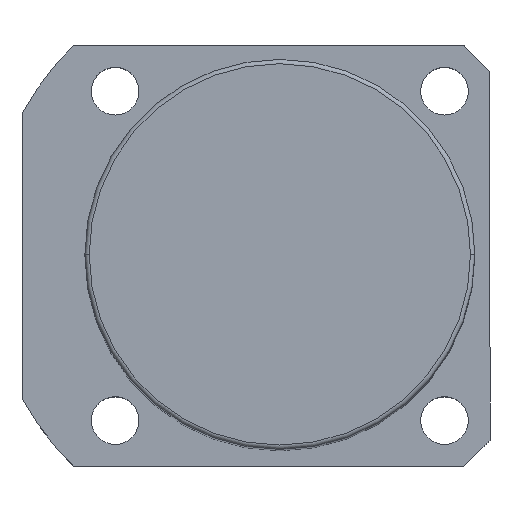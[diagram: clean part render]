
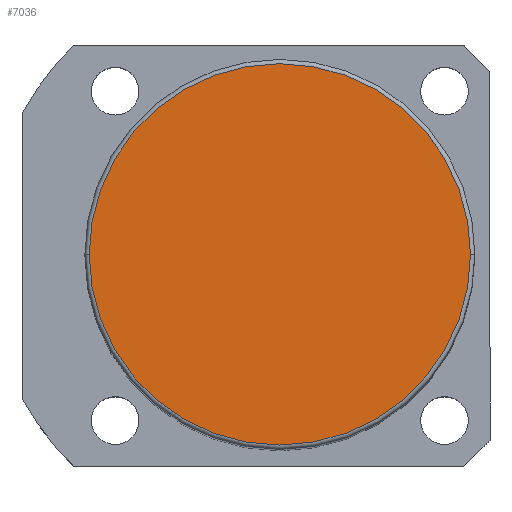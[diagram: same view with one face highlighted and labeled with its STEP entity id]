
A CAD part, top view. The second image highlights one B-rep face of the part: STEP entity #7036.
In plain terms, the highlighted planar face has unit normal (0, 0, 1).
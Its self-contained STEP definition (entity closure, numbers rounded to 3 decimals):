
#189 = DIRECTION ( 'NONE',  ( 1., 0., 0. ) ) ;
#372 = PLANE ( 'NONE',  #7409 ) ;
#805 = FACE_OUTER_BOUND ( 'NONE', #2530, .T. ) ;
#1546 = DIRECTION ( 'NONE',  ( 1., 0., 0. ) ) ;
#2373 = EDGE_CURVE ( 'NONE', #5811, #2411, #6523, .T. ) ;
#2411 = VERTEX_POINT ( 'NONE', #3139 ) ;
#2530 = EDGE_LOOP ( 'NONE', ( #3575, #6049 ) ) ;
#3122 = CARTESIAN_POINT ( 'NONE',  ( 0., 0., 211.5 ) ) ;
#3139 = CARTESIAN_POINT ( 'NONE',  ( -44., 0., 211.5 ) ) ;
#3575 = ORIENTED_EDGE ( 'NONE', *, *, #2373, .T. ) ;
#3614 = DIRECTION ( 'NONE',  ( 0., 0., 1. ) ) ;
#4101 = EDGE_CURVE ( 'NONE', #2411, #5811, #4704, .T. ) ;
#4313 = AXIS2_PLACEMENT_3D ( 'NONE', #7044, #3614, #189 ) ;
#4704 = CIRCLE ( 'NONE', #4313, 44. ) ;
#4995 = DIRECTION ( 'NONE',  ( 0., 0., 1. ) ) ;
#5811 = VERTEX_POINT ( 'NONE', #6458 ) ;
#6049 = ORIENTED_EDGE ( 'NONE', *, *, #4101, .T. ) ;
#6458 = CARTESIAN_POINT ( 'NONE',  ( 44., 0., 211.5 ) ) ;
#6523 = CIRCLE ( 'NONE', #7110, 44. ) ;
#7036 = ADVANCED_FACE ( 'NONE', ( #805 ), #372, .T. ) ;
#7044 = CARTESIAN_POINT ( 'NONE',  ( 0., 0., 211.5 ) ) ;
#7110 = AXIS2_PLACEMENT_3D ( 'NONE', #7151, #7171, #7446 ) ;
#7151 = CARTESIAN_POINT ( 'NONE',  ( 0., 0., 211.5 ) ) ;
#7171 = DIRECTION ( 'NONE',  ( 0., 0., 1. ) ) ;
#7409 = AXIS2_PLACEMENT_3D ( 'NONE', #3122, #4995, #1546 ) ;
#7446 = DIRECTION ( 'NONE',  ( 1., 0., 0. ) ) ;
